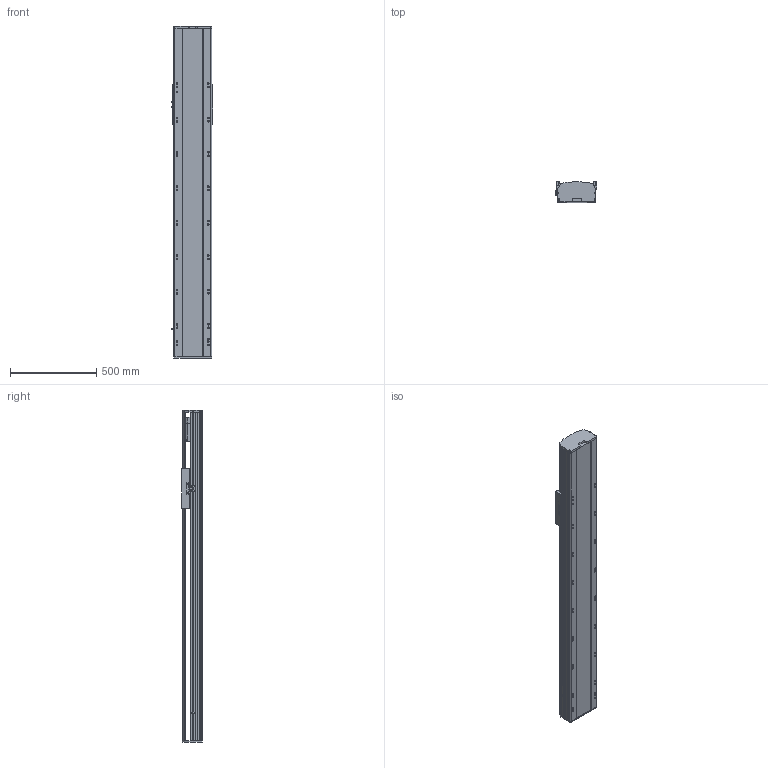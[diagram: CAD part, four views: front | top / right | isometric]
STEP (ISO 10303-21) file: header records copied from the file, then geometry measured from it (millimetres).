
FILE_DESCRIPTION (( 'STEP AP214' ), '1' );
FILE_NAME ('RTH22-XX-1300-B-M75B-C4.STEP', '2025-10-24T10:14:19', ( 'Microsoft' ), ( 'Microsoft' ), 'SwSTEP 2.0', 'SolidWorks 2018', '' );
FILE_SCHEMA (( 'AUTOMOTIVE_DESIGN' ));
Length unit declared in the file: millimetre
Products named in the file (9): N_RTH22-E-004-SFS25賑釱^RTH22-XX-XX-B-M75B-C4; N_RTH22-B008萇儂啣^RTH22-XX-XX-B-M75B-C4; N_RTH22-GY-013外置感应片^RTH22-XX-XX-B-M75B-C4; N_OMRON EE-SX672 传感器^RTH22-XX-XX-B-M75B-C4; N_RTH22-B-007B奻裔^RTH22-XX-XX-B-M75B-C4; N_RTH22-B-011B菁釱^RTH22-XX-XX-B-M75B-C4; N_750W萇儂^RTH22-XX-XX-B-M75B-C4; N_RTH22-GY-001耜裔^RTH22-XX-XX-B-M75B-C4; RTH22-XX-1300-B-M75B-C4
Assembly tree (10 placements, depth 2):
  RTH22-XX-1300-B-M75B-C4
    N_RTH22-B-011B菁釱^RTH22-XX-XX-B-M75B-C4
    N_RTH22-GY-001耜裔^RTH22-XX-XX-B-M75B-C4
    N_750W萇儂^RTH22-XX-XX-B-M75B-C4
    N_RTH22-B008萇儂啣^RTH22-XX-XX-B-M75B-C4
    N_RTH22-B-007B奻裔^RTH22-XX-XX-B-M75B-C4
    N_OMRON EE-SX672 传感器^RTH22-XX-XX-B-M75B-C4  x3
    N_RTH22-GY-013外置感应片^RTH22-XX-XX-B-M75B-C4
    N_RTH22-E-004-SFS25賑釱^RTH22-XX-XX-B-M75B-C4
Bounding box: 238.5 x 122 x 1930 mm (x, y, z)
Volume: 25455248.7 mm3; surface area: 2606639.3 mm2
Topology: 10 solids, 10 shells, 1569 faces, 4300 edges, 2773 vertices
Faces by surface type: plane 758, cylinder 466, bspline 279, cone 66
Entity records: 39407 total; most frequent: CARTESIAN_POINT 12141, ORIENTED_EDGE 5560, DIRECTION 5258, EDGE_CURVE 2780, VERTEX_POINT 1809, AXIS2_PLACEMENT_3D 1786, LINE 1686, VECTOR 1686
